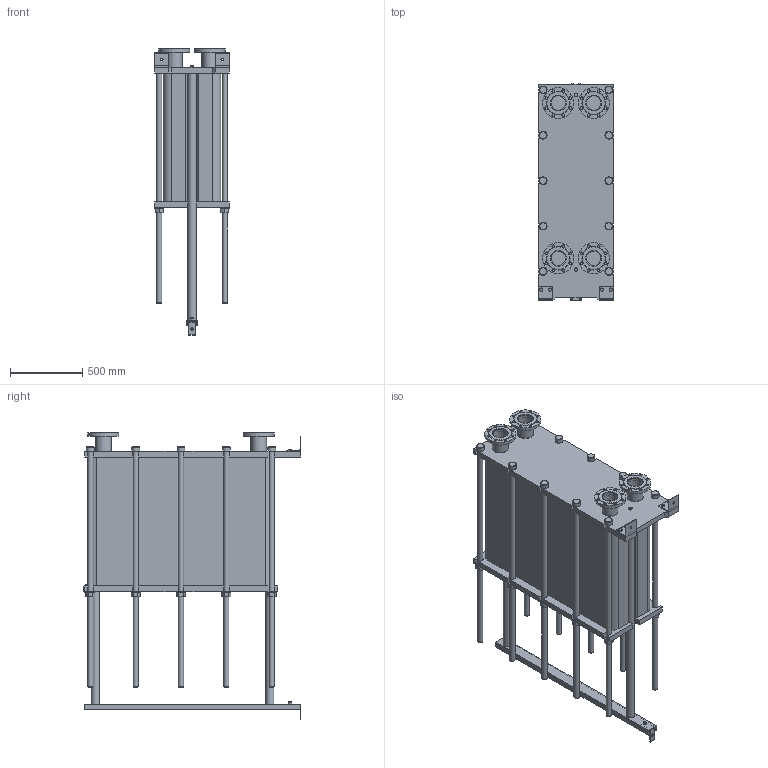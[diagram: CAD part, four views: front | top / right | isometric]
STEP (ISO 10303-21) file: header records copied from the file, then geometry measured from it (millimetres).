
FILE_DESCRIPTION(/* description */ (''),/* implementation_level */ '2;1');
FILE_NAME(/* name */ 'C:\Users\zhuro\Desktop\ENCO\TO\ЭН-04\ЭН-0,5-04-259-1.stp',/* time_stamp */ '2022-06-06T11:07:16+03:00',/* author */ ('zhuro'),/* organization */ (''),/* preprocessor_version */ 'ST-DEVELOPER v18.1',/* originating_system */ 'Autodesk Inventor 2022',/* authorisation */ '');
FILE_SCHEMA (('AUTOMOTIVE_DESIGN { 1 0 10303 214 3 1 1 }'));
Length unit declared in the file: millimetre
Products named in the file (1): ЭН-0,5-04-259-1
Bounding box: 520 x 1510 x 1989.5 mm (x, y, z)
Volume: 526322106.8 mm3; surface area: 11851687 mm2
Topology: 45 solids, 45 shells, 668 faces, 1611 edges, 1048 vertices
Faces by surface type: plane 457, cylinder 166, cone 39, torus 6
Full cylindrical faces by diameter (mm): 8 x4, 10 x2, 16 x8, 18 x35, 36 x25, 40 x2, 42 x1, 45 x4, 54 x10, 57 x2, 60 x10, 68 x2, 100 x4, 110 x8, 215 x4
Entity records: 23607 total; most frequent: CARTESIAN_POINT 7348, DIRECTION 3371, ORIENTED_EDGE 3142, EDGE_CURVE 1571, AXIS2_PLACEMENT_3D 1199, VERTEX_POINT 1044, LINE 973, VECTOR 973
